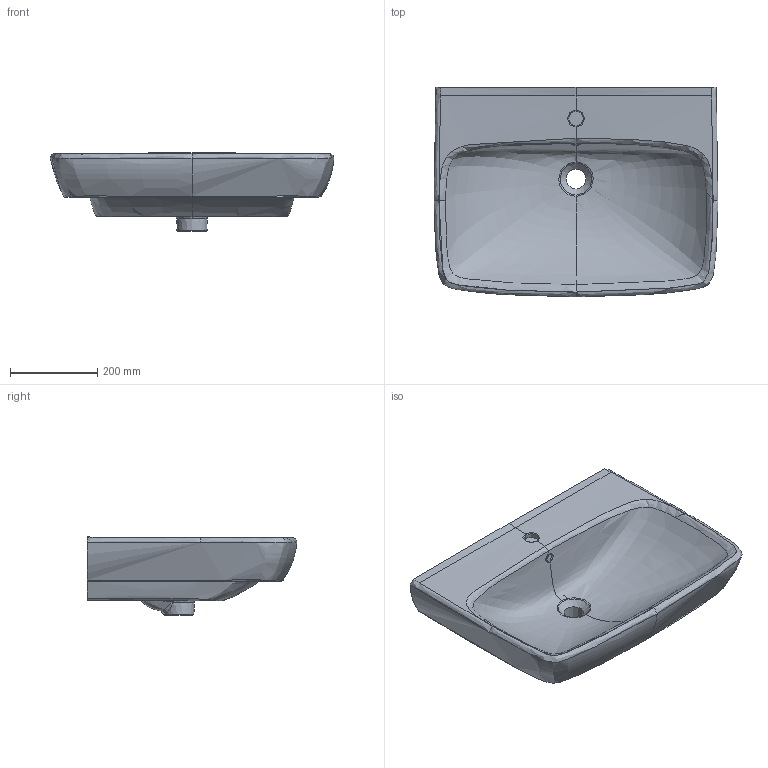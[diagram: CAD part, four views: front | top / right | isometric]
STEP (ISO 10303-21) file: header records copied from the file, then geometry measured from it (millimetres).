
FILE_DESCRIPTION(/* description */ (''),/* implementation_level */ '2;1');
FILE_NAME(/* name */ 'C:\Planerdaten\Export PLA\500.299.01.1\stp\500299.stp',/* time_stamp */ '2020-05-01T05:24:19-07:00',/* author */ ('JANAN'),/* organization */ (''),/* preprocessor_version */ 'ST-DEVELOPER v16.13',/* originating_system */ 'Autodesk Inventor 2018',/* authorisation */ '');
FILE_SCHEMA (('AUTOMOTIVE_DESIGN { 1 0 10303 214 3 1 1 }'));
Products named in the file (1): WT Ge+SnvS B65 m/ÜLF m/HLo
Bounding box: 650.22 x 480 x 180 mm (x, y, z)
Volume: 20180702.7 mm3; surface area: 922689.6 mm2
Topology: 1 solids, 1 shells, 101 faces, 267 edges, 169 vertices
Faces by surface type: bspline 65, plane 24, cylinder 9, cone 2, torus 1
Full cylindrical faces by diameter (mm): 46 x1
Entity records: 59812 total; most frequent: CARTESIAN_POINT 57661, ORIENTED_EDGE 524, EDGE_CURVE 262, DIRECTION 252, VERTEX_POINT 169, B_SPLINE_CURVE_WITH_KNOTS 135, EDGE_LOOP 109, STYLED_ITEM 102
